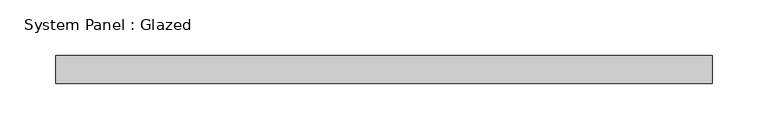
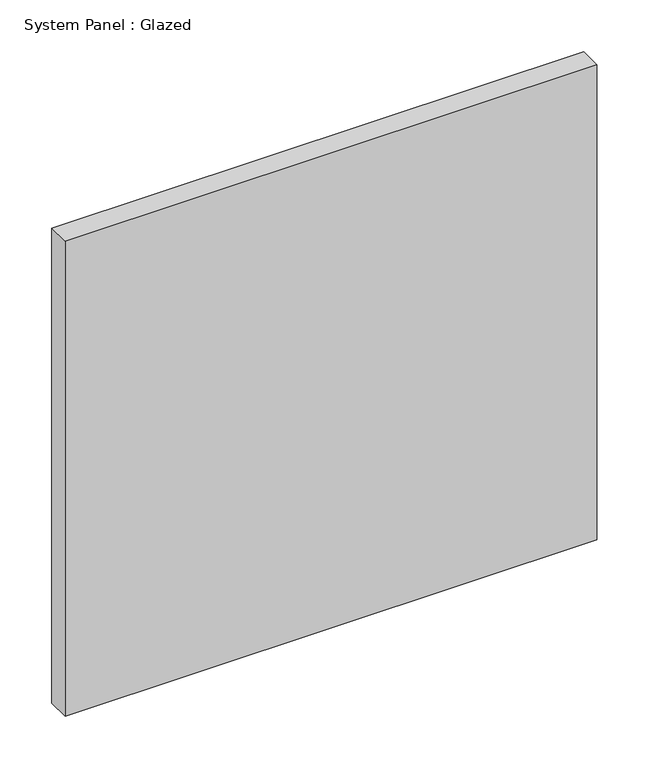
"""IFC4 building model written with IfcOpenShell, lengths in millimetres: plate geometry, System Panel : Glazed."""

from ifc_helpers import new_model, si_unit, origin, origin_with_axes, place, context, project, spatial, polyline, outline, extrude, source, transform, mapped, element, save


def system_panel_glazed_37244fd0(model_context):
    return source(origin(), model_context, "Body", "SweptSolid", [
        extrude(outline(polyline([(295.9268885, -12.7), (-295.9268885, -12.7), (-295.9268885, 12.7), (295.9268885, 12.7), (295.9268885, -12.7)])), origin_with_axes(), (0.0, 0.0, 1.0), 558.8),
    ])


if __name__ == "__main__":
    model = new_model("IFC4")
    model_context = context("Model", 3, world=origin())
    ifc_project = project(units=[si_unit("LENGTHUNIT", "METRE", prefix="MILLI")], contexts=[model_context])
    site = spatial("IfcSite", under=ifc_project)
    building = spatial("IfcBuilding", under=site)
    placement = place(None, origin())
    system_panel_glazed_shape = system_panel_glazed_37244fd0(model_context)
    element("IfcPlate", 1, ObjectType="System Panel : Glazed", at=placement, inside=building, context=model_context, shape_type="MappedRepresentation", body=[
        mapped(system_panel_glazed_shape, transform((0.0, 0.0, 0.0), x_axis=(1.0, 0.0, 0.0), y_axis=(0.0, 1.0, 0.0), z_axis=(0.0, 0.0, 1.0))),
    ])
    save(model, "model.ifc")
